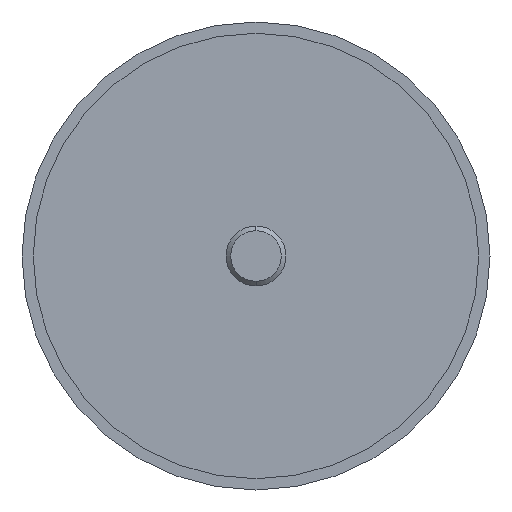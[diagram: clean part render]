
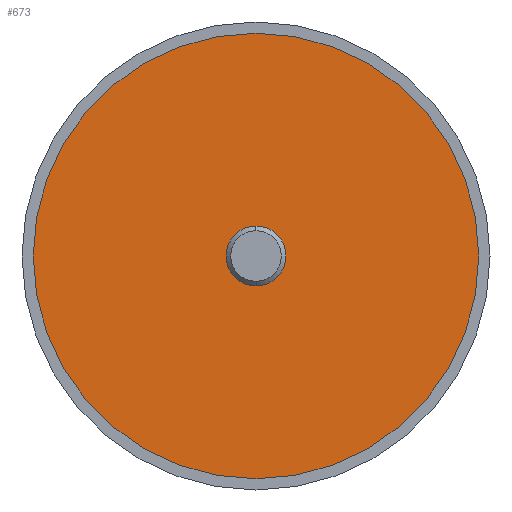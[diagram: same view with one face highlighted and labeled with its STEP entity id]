
A CAD part, left-side view. The second image highlights one B-rep face of the part: STEP entity #673.
In plain terms, the highlighted planar face has unit normal (-1, 0, 0).
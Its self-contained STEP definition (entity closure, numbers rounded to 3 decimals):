
#19 = CIRCLE ( 'NONE', #605, 8. ) ;
#30 = VERTEX_POINT ( 'NONE', #79 ) ;
#45 = AXIS2_PLACEMENT_3D ( 'NONE', #318, #680, #364 ) ;
#67 = VERTEX_POINT ( 'NONE', #525 ) ;
#79 = CARTESIAN_POINT ( 'NONE',  ( -27.49, 0., -8. ) ) ;
#83 = ORIENTED_EDGE ( 'NONE', *, *, #199, .F. ) ;
#99 = DIRECTION ( 'NONE',  ( -1., 0., 0. ) ) ;
#125 = EDGE_CURVE ( 'NONE', #329, #377, #365, .T. ) ;
#137 = DIRECTION ( 'NONE',  ( 0., 0., -1. ) ) ;
#149 = CARTESIAN_POINT ( 'NONE',  ( -27.49, 0., 0. ) ) ;
#161 = ORIENTED_EDGE ( 'NONE', *, *, #440, .T. ) ;
#199 = EDGE_CURVE ( 'NONE', #67, #30, #19, .T. ) ;
#202 = DIRECTION ( 'NONE',  ( 0., 0., -1. ) ) ;
#215 = DIRECTION ( 'NONE',  ( -1., 0., 0. ) ) ;
#232 = ORIENTED_EDGE ( 'NONE', *, *, #287, .F. ) ;
#243 = EDGE_LOOP ( 'NONE', ( #83, #232 ) ) ;
#256 = AXIS2_PLACEMENT_3D ( 'NONE', #654, #587, #137 ) ;
#287 = EDGE_CURVE ( 'NONE', #30, #67, #498, .T. ) ;
#318 = CARTESIAN_POINT ( 'NONE',  ( -27.49, 0., 0. ) ) ;
#329 = VERTEX_POINT ( 'NONE', #394 ) ;
#359 = EDGE_LOOP ( 'NONE', ( #493, #161 ) ) ;
#361 = CARTESIAN_POINT ( 'NONE',  ( -27.49, 0., 0. ) ) ;
#364 = DIRECTION ( 'NONE',  ( 0., 0., 1. ) ) ;
#365 = CIRCLE ( 'NONE', #449, 59.5 ) ;
#377 = VERTEX_POINT ( 'NONE', #504 ) ;
#378 = FACE_OUTER_BOUND ( 'NONE', #359, .T. ) ;
#383 = DIRECTION ( 'NONE',  ( 0., 0., -1. ) ) ;
#389 = CARTESIAN_POINT ( 'NONE',  ( -27.49, 0., 0. ) ) ;
#394 = CARTESIAN_POINT ( 'NONE',  ( -27.49, 0., 59.5 ) ) ;
#422 = AXIS2_PLACEMENT_3D ( 'NONE', #389, #661, #383 ) ;
#425 = CIRCLE ( 'NONE', #45, 59.5 ) ;
#440 = EDGE_CURVE ( 'NONE', #377, #329, #425, .T. ) ;
#449 = AXIS2_PLACEMENT_3D ( 'NONE', #361, #215, #579 ) ;
#488 = PLANE ( 'NONE',  #256 ) ;
#493 = ORIENTED_EDGE ( 'NONE', *, *, #125, .T. ) ;
#498 = CIRCLE ( 'NONE', #422, 8. ) ;
#504 = CARTESIAN_POINT ( 'NONE',  ( -27.49, 0., -59.5 ) ) ;
#525 = CARTESIAN_POINT ( 'NONE',  ( -27.49, 0., 8. ) ) ;
#579 = DIRECTION ( 'NONE',  ( 0., 0., 1. ) ) ;
#587 = DIRECTION ( 'NONE',  ( 1., 0., 0. ) ) ;
#602 = FACE_BOUND ( 'NONE', #243, .T. ) ;
#605 = AXIS2_PLACEMENT_3D ( 'NONE', #149, #99, #202 ) ;
#654 = CARTESIAN_POINT ( 'NONE',  ( -27.49, 59.5, 0. ) ) ;
#661 = DIRECTION ( 'NONE',  ( -1., 0., 0. ) ) ;
#673 = ADVANCED_FACE ( 'NONE', ( #378, #602 ), #488, .F. ) ;
#680 = DIRECTION ( 'NONE',  ( -1., 0., 0. ) ) ;
